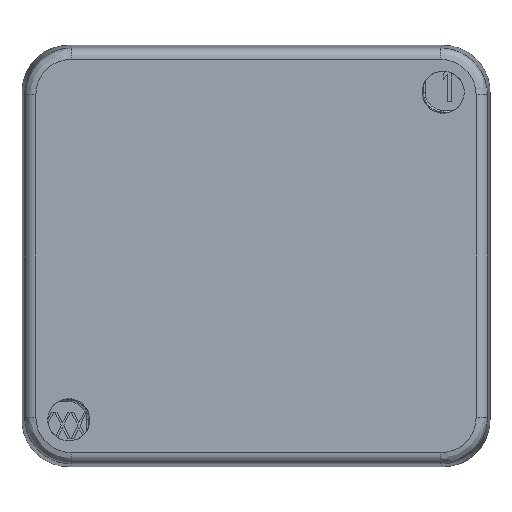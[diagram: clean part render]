
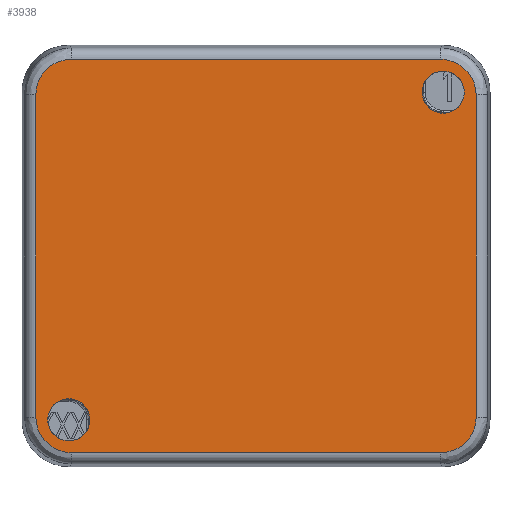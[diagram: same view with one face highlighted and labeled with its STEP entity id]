
A CAD part, front view. The second image highlights one B-rep face of the part: STEP entity #3938.
In plain terms, the highlighted planar face has unit normal (0, -1, 0).
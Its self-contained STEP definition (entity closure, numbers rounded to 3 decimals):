
#1198=CARTESIAN_POINT('',(20.,-24.,17.5));
#1199=DIRECTION('',(0.,1.,0.));
#1200=DIRECTION('',(0.,0.,-1.));
#1201=AXIS2_PLACEMENT_3D('',#1198,#1199,#1200);
#1206=CARTESIAN_POINT('',(20.,-24.,17.5));
#1207=DIRECTION('',(0.,1.,0.));
#1208=DIRECTION('',(0.,0.,1.));
#1209=AXIS2_PLACEMENT_3D('',#1206,#1207,#1208);
#1214=CARTESIAN_POINT('',(-20.,-24.,-17.5));
#1215=DIRECTION('',(0.,-1.,0.));
#1216=DIRECTION('',(0.,0.,-1.));
#1217=AXIS2_PLACEMENT_3D('',#1214,#1215,#1216);
#1222=CARTESIAN_POINT('',(-20.,-24.,-17.5));
#1223=DIRECTION('',(0.,-1.,0.));
#1224=DIRECTION('',(0.,0.,1.));
#1225=AXIS2_PLACEMENT_3D('',#1222,#1223,#1224);
#1230=DIRECTION('',(0.,0.,-1.));
#1231=VECTOR('',#1230,34.43);
#1232=CARTESIAN_POINT('',(-23.515,-24.,17.215));
#1233=LINE('',#1232,#1231);
#1237=CARTESIAN_POINT('',(-19.715,-24.,21.015));
#1238=CARTESIAN_POINT('',(-19.969,-24.,21.015));
#1239=CARTESIAN_POINT('',(-20.463,-24.,20.965));
#1240=CARTESIAN_POINT('',(-21.175,-24.,20.75));
#1241=CARTESIAN_POINT('',(-21.832,-24.,20.4));
#1242=CARTESIAN_POINT('',(-22.409,-24.,19.929));
#1243=CARTESIAN_POINT('',(-22.883,-24.,19.358));
#1244=CARTESIAN_POINT('',(-23.241,-24.,18.697));
#1245=CARTESIAN_POINT('',(-23.464,-24.,17.971));
#1246=CARTESIAN_POINT('',(-23.515,-24.,17.471));
#1247=CARTESIAN_POINT('',(-23.515,-24.,17.215));
#1252=DIRECTION('',(-1.,0.,0.));
#1253=VECTOR('',#1252,39.43);
#1254=CARTESIAN_POINT('',(19.715,-24.,21.015));
#1255=LINE('',#1254,#1253);
#1259=CARTESIAN_POINT('',(23.515,-24.,17.215));
#1260=CARTESIAN_POINT('',(23.515,-24.,17.469));
#1261=CARTESIAN_POINT('',(23.465,-24.,17.963));
#1262=CARTESIAN_POINT('',(23.25,-24.,18.675));
#1263=CARTESIAN_POINT('',(22.9,-24.,19.332));
#1264=CARTESIAN_POINT('',(22.429,-24.,19.909));
#1265=CARTESIAN_POINT('',(21.858,-24.,20.383));
#1266=CARTESIAN_POINT('',(21.197,-24.,20.741));
#1267=CARTESIAN_POINT('',(20.471,-24.,20.964));
#1268=CARTESIAN_POINT('',(19.971,-24.,21.015));
#1269=CARTESIAN_POINT('',(19.715,-24.,21.015));
#1274=DIRECTION('',(0.,0.,1.));
#1275=VECTOR('',#1274,34.43);
#1276=CARTESIAN_POINT('',(23.515,-24.,-17.215));
#1277=LINE('',#1276,#1275);
#1281=CARTESIAN_POINT('',(19.715,-24.,-21.015));
#1282=CARTESIAN_POINT('',(19.969,-24.,-21.015));
#1283=CARTESIAN_POINT('',(20.463,-24.,-20.965));
#1284=CARTESIAN_POINT('',(21.175,-24.,-20.75));
#1285=CARTESIAN_POINT('',(21.832,-24.,-20.4));
#1286=CARTESIAN_POINT('',(22.409,-24.,-19.929));
#1287=CARTESIAN_POINT('',(22.883,-24.,-19.358));
#1288=CARTESIAN_POINT('',(23.241,-24.,-18.697));
#1289=CARTESIAN_POINT('',(23.464,-24.,-17.971));
#1290=CARTESIAN_POINT('',(23.515,-24.,-17.471));
#1291=CARTESIAN_POINT('',(23.515,-24.,-17.215));
#1296=DIRECTION('',(1.,0.,0.));
#1297=VECTOR('',#1296,39.43);
#1298=CARTESIAN_POINT('',(-19.715,-24.,-21.015));
#1299=LINE('',#1298,#1297);
#1303=CARTESIAN_POINT('',(-23.515,-24.,-17.215));
#1304=CARTESIAN_POINT('',(-23.515,-24.,-17.469));
#1305=CARTESIAN_POINT('',(-23.465,-24.,-17.963));
#1306=CARTESIAN_POINT('',(-23.25,-24.,-18.675));
#1307=CARTESIAN_POINT('',(-22.9,-24.,-19.332));
#1308=CARTESIAN_POINT('',(-22.429,-24.,-19.909));
#1309=CARTESIAN_POINT('',(-21.858,-24.,-20.383));
#1310=CARTESIAN_POINT('',(-21.197,-24.,-20.741));
#1311=CARTESIAN_POINT('',(-20.471,-24.,-20.964));
#1312=CARTESIAN_POINT('',(-19.971,-24.,-21.015));
#1313=CARTESIAN_POINT('',(-19.715,-24.,-21.015));
#3585=CARTESIAN_POINT('',(-23.515,-24.,17.215));
#3586=CARTESIAN_POINT('',(-23.515,-24.,-17.215));
#3587=VERTEX_POINT('',#3585);
#3588=VERTEX_POINT('',#3586);
#3593=VERTEX_POINT('',#1237);
#3595=CARTESIAN_POINT('',(19.715,-24.,21.015));
#3596=VERTEX_POINT('',#3595);
#3599=VERTEX_POINT('',#1259);
#3601=CARTESIAN_POINT('',(23.515,-24.,-17.215));
#3602=VERTEX_POINT('',#3601);
#3605=VERTEX_POINT('',#1313);
#3607=CARTESIAN_POINT('',(19.715,-24.,-21.015));
#3608=VERTEX_POINT('',#3607);
#3867=CARTESIAN_POINT('',(20.,-24.,15.25));
#3868=CARTESIAN_POINT('',(20.,-24.,19.75));
#3869=VERTEX_POINT('',#3867);
#3870=VERTEX_POINT('',#3868);
#3875=CARTESIAN_POINT('',(-20.,-24.,-19.75));
#3876=CARTESIAN_POINT('',(-20.,-24.,-15.25));
#3877=VERTEX_POINT('',#3875);
#3878=VERTEX_POINT('',#3876);
#3903=CARTESIAN_POINT('',(0.,-24.,0.));
#3904=DIRECTION('',(0.,-1.,0.));
#3905=DIRECTION('',(1.,0.,0.));
#3906=AXIS2_PLACEMENT_3D('',#3903,#3904,#3905);
#3907=PLANE('',#3906);
#3909=ORIENTED_EDGE('',*,*,#3908,.F.);
#3911=ORIENTED_EDGE('',*,*,#3910,.F.);
#3913=ORIENTED_EDGE('',*,*,#3912,.F.);
#3915=ORIENTED_EDGE('',*,*,#3914,.F.);
#3917=ORIENTED_EDGE('',*,*,#3916,.F.);
#3919=ORIENTED_EDGE('',*,*,#3918,.F.);
#3921=ORIENTED_EDGE('',*,*,#3920,.F.);
#3923=ORIENTED_EDGE('',*,*,#3922,.F.);
#3924=EDGE_LOOP('',(#3909,#3911,#3913,#3915,#3917,#3919,#3921,#3923));
#3925=FACE_OUTER_BOUND('',#3924,.F.);
#3927=ORIENTED_EDGE('',*,*,#3926,.T.);
#3929=ORIENTED_EDGE('',*,*,#3928,.T.);
#3930=EDGE_LOOP('',(#3927,#3929));
#3931=FACE_BOUND('',#3930,.F.);
#3933=ORIENTED_EDGE('',*,*,#3932,.F.);
#3935=ORIENTED_EDGE('',*,*,#3934,.F.);
#3936=EDGE_LOOP('',(#3933,#3935));
#3937=FACE_BOUND('',#3936,.F.);
#1202=CIRCLE('',#1201,2.25);
#1210=CIRCLE('',#1209,2.25);
#1218=CIRCLE('',#1217,2.25);
#1226=CIRCLE('',#1225,2.25);
#1248=B_SPLINE_CURVE_WITH_KNOTS('',3,(#1237,#1238,#1239,#1240,#1241,#1242,#1243,
#1244,#1245,#1246,#1247),.UNSPECIFIED.,.F.,.F.,(4,1,1,1,1,1,1,1,4),(0.,
0.125,0.25,0.375,0.5,0.625,0.75,0.875,1.),.UNSPECIFIED.);
#1270=B_SPLINE_CURVE_WITH_KNOTS('',3,(#1259,#1260,#1261,#1262,#1263,#1264,#1265,
#1266,#1267,#1268,#1269),.UNSPECIFIED.,.F.,.F.,(4,1,1,1,1,1,1,1,4),(0.,
0.125,0.25,0.375,0.5,0.625,0.75,0.875,1.),.UNSPECIFIED.);
#1292=B_SPLINE_CURVE_WITH_KNOTS('',3,(#1281,#1282,#1283,#1284,#1285,#1286,#1287,
#1288,#1289,#1290,#1291),.UNSPECIFIED.,.F.,.F.,(4,1,1,1,1,1,1,1,4),(0.,
0.125,0.25,0.375,0.5,0.625,0.75,0.875,1.),.UNSPECIFIED.);
#1314=B_SPLINE_CURVE_WITH_KNOTS('',3,(#1303,#1304,#1305,#1306,#1307,#1308,#1309,
#1310,#1311,#1312,#1313),.UNSPECIFIED.,.F.,.F.,(4,1,1,1,1,1,1,1,4),(0.,
0.125,0.25,0.375,0.5,0.625,0.75,0.875,1.),.UNSPECIFIED.);
#3908=EDGE_CURVE('',#3587,#3588,#1233,.T.);
#3910=EDGE_CURVE('',#3593,#3587,#1248,.T.);
#3912=EDGE_CURVE('',#3596,#3593,#1255,.T.);
#3914=EDGE_CURVE('',#3599,#3596,#1270,.T.);
#3916=EDGE_CURVE('',#3602,#3599,#1277,.T.);
#3918=EDGE_CURVE('',#3608,#3602,#1292,.T.);
#3920=EDGE_CURVE('',#3605,#3608,#1299,.T.);
#3922=EDGE_CURVE('',#3588,#3605,#1314,.T.);
#3926=EDGE_CURVE('',#3877,#3878,#1218,.T.);
#3928=EDGE_CURVE('',#3878,#3877,#1226,.T.);
#3932=EDGE_CURVE('',#3869,#3870,#1202,.T.);
#3934=EDGE_CURVE('',#3870,#3869,#1210,.T.);
#3938=ADVANCED_FACE('',(#3925,#3931,#3937),#3907,.T.);
